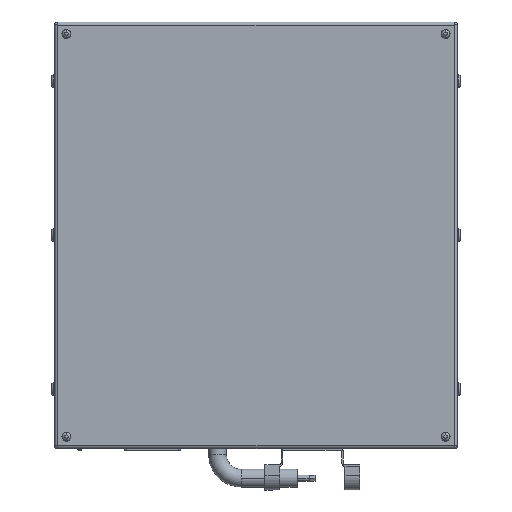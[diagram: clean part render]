
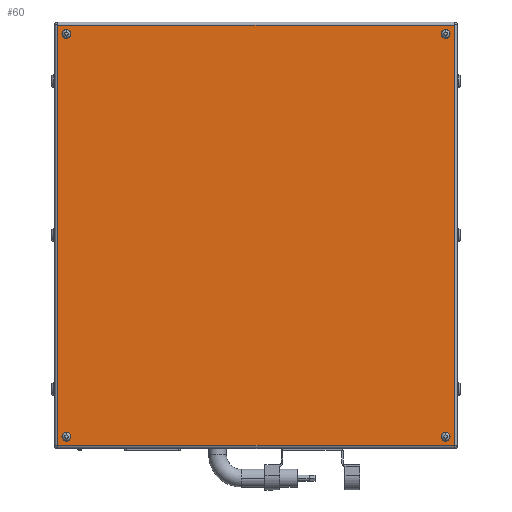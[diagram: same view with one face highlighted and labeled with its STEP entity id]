
A CAD part, front view. The second image highlights one B-rep face of the part: STEP entity #60.
In plain terms, the highlighted planar face has unit normal (0, -1, 0).
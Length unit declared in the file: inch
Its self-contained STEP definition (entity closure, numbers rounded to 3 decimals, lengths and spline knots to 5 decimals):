
#60 = ADVANCED_FACE ( 'NONE', ( #3467, #324, #6841, #18116, #18003 ), #10041, .T. ) ;
#324 = FACE_BOUND ( 'NONE', #19485, .T. ) ;
#382 = AXIS2_PLACEMENT_3D ( 'NONE', #10482, #16852, #15373 ) ;
#522 = CARTESIAN_POINT ( 'NONE',  ( -16., -10.5, -16.62598 ) ) ;
#549 = CARTESIAN_POINT ( 'NONE',  ( 16.734, -10.5, 17.8 ) ) ;
#952 = CARTESIAN_POINT ( 'NONE',  ( -16.734, -10.5, -17.734 ) ) ;
#1193 = EDGE_CURVE ( 'NONE', #18578, #15379, #13645, .T. ) ;
#1246 = DIRECTION ( 'NONE',  ( 0., -1., 0. ) ) ;
#1249 = AXIS2_PLACEMENT_3D ( 'NONE', #2051, #8430, #7219 ) ;
#1585 = EDGE_CURVE ( 'NONE', #7565, #14504, #4558, .T. ) ;
#2051 = CARTESIAN_POINT ( 'NONE',  ( 16., -10.5, -17. ) ) ;
#2094 = DIRECTION ( 'NONE',  ( 0., -1., 0. ) ) ;
#2262 = EDGE_LOOP ( 'NONE', ( #7153, #13024 ) ) ;
#2322 = DIRECTION ( 'NONE',  ( 0., 0., 1. ) ) ;
#2667 = CIRCLE ( 'NONE', #16113, 0.37402 ) ;
#2693 = DIRECTION ( 'NONE',  ( 0., 0., -1. ) ) ;
#2710 = DIRECTION ( 'NONE',  ( 0., 0., -1. ) ) ;
#2857 = ORIENTED_EDGE ( 'NONE', *, *, #9397, .T. ) ;
#2880 = EDGE_CURVE ( 'NONE', #7275, #16351, #3600, .T. ) ;
#2994 = DIRECTION ( 'NONE',  ( 0., -1., 0. ) ) ;
#3064 = DIRECTION ( 'NONE',  ( 1., 0., 0. ) ) ;
#3117 = DIRECTION ( 'NONE',  ( 0., 0., -1. ) ) ;
#3467 = FACE_BOUND ( 'NONE', #10900, .T. ) ;
#3473 = CARTESIAN_POINT ( 'NONE',  ( -16., -10.5, 17. ) ) ;
#3577 = CARTESIAN_POINT ( 'NONE',  ( -16., -10.5, -17. ) ) ;
#3600 = CIRCLE ( 'NONE', #7961, 0.37402 ) ;
#3702 = LINE ( 'NONE', #549, #17537 ) ;
#4195 = VECTOR ( 'NONE', #3064, 39.37008 ) ;
#4232 = ORIENTED_EDGE ( 'NONE', *, *, #1585, .F. ) ;
#4259 = LINE ( 'NONE', #19065, #4195 ) ;
#4558 = CIRCLE ( 'NONE', #7237, 0.37402 ) ;
#4569 = VERTEX_POINT ( 'NONE', #18164 ) ;
#4872 = DIRECTION ( 'NONE',  ( 0., -1., 0. ) ) ;
#5120 = CIRCLE ( 'NONE', #382, 0.37402 ) ;
#6025 = EDGE_CURVE ( 'NONE', #18782, #12435, #10843, .T. ) ;
#6283 = ORIENTED_EDGE ( 'NONE', *, *, #1193, .F. ) ;
#6385 = CARTESIAN_POINT ( 'NONE',  ( -16., -10.5, -17.37402 ) ) ;
#6841 = FACE_BOUND ( 'NONE', #11628, .T. ) ;
#6915 = ORIENTED_EDGE ( 'NONE', *, *, #12863, .T. ) ;
#7153 = ORIENTED_EDGE ( 'NONE', *, *, #13659, .F. ) ;
#7174 = AXIS2_PLACEMENT_3D ( 'NONE', #3473, #2094, #14933 ) ;
#7219 = DIRECTION ( 'NONE',  ( 0., 0., -1. ) ) ;
#7237 = AXIS2_PLACEMENT_3D ( 'NONE', #14394, #4872, #19470 ) ;
#7275 = VERTEX_POINT ( 'NONE', #16846 ) ;
#7276 = CARTESIAN_POINT ( 'NONE',  ( 16., -10.5, -16.62598 ) ) ;
#7432 = DIRECTION ( 'NONE',  ( 0., -1., 0. ) ) ;
#7565 = VERTEX_POINT ( 'NONE', #12583 ) ;
#7640 = CARTESIAN_POINT ( 'NONE',  ( -16.734, -10.5, -17.8 ) ) ;
#7670 = ORIENTED_EDGE ( 'NONE', *, *, #6025, .T. ) ;
#7939 = LINE ( 'NONE', #14550, #10681 ) ;
#7961 = AXIS2_PLACEMENT_3D ( 'NONE', #14339, #2994, #15828 ) ;
#8042 = VERTEX_POINT ( 'NONE', #18054 ) ;
#8430 = DIRECTION ( 'NONE',  ( 0., -1., 0. ) ) ;
#8797 = DIRECTION ( 'NONE',  ( 0., 0., -1. ) ) ;
#9397 = EDGE_CURVE ( 'NONE', #4569, #8042, #3702, .T. ) ;
#9634 = DIRECTION ( 'NONE',  ( 0., 0., -1. ) ) ;
#10041 = PLANE ( 'NONE',  #17728 ) ;
#10255 = CARTESIAN_POINT ( 'NONE',  ( 0., -10.5, 0. ) ) ;
#10482 = CARTESIAN_POINT ( 'NONE',  ( -16., -10.5, -17. ) ) ;
#10562 = CARTESIAN_POINT ( 'NONE',  ( 16., -10.5, 17. ) ) ;
#10681 = VECTOR ( 'NONE', #12508, 39.37008 ) ;
#10794 = EDGE_CURVE ( 'NONE', #16536, #17311, #17836, .T. ) ;
#10843 = LINE ( 'NONE', #7640, #17950 ) ;
#10887 = ORIENTED_EDGE ( 'NONE', *, *, #16517, .F. ) ;
#10900 = EDGE_LOOP ( 'NONE', ( #17959, #14190 ) ) ;
#10972 = CARTESIAN_POINT ( 'NONE',  ( -16.734, -10.5, 17.734 ) ) ;
#11366 = AXIS2_PLACEMENT_3D ( 'NONE', #3577, #14926, #9634 ) ;
#11628 = EDGE_LOOP ( 'NONE', ( #16964, #6283 ) ) ;
#11958 = CARTESIAN_POINT ( 'NONE',  ( 16., -10.5, -17.37402 ) ) ;
#12435 = VERTEX_POINT ( 'NONE', #952 ) ;
#12459 = EDGE_CURVE ( 'NONE', #16351, #7275, #13709, .T. ) ;
#12508 = DIRECTION ( 'NONE',  ( -1., 0., 0. ) ) ;
#12569 = CARTESIAN_POINT ( 'NONE',  ( -16., -10.5, 17.37402 ) ) ;
#12583 = CARTESIAN_POINT ( 'NONE',  ( -16., -10.5, 16.62598 ) ) ;
#12624 = EDGE_CURVE ( 'NONE', #15379, #18578, #2667, .T. ) ;
#12863 = EDGE_CURVE ( 'NONE', #8042, #18782, #7939, .T. ) ;
#13013 = CARTESIAN_POINT ( 'NONE',  ( 16., -10.5, 16.62598 ) ) ;
#13024 = ORIENTED_EDGE ( 'NONE', *, *, #10794, .F. ) ;
#13238 = EDGE_LOOP ( 'NONE', ( #2857, #6915, #7670, #15638 ) ) ;
#13645 = CIRCLE ( 'NONE', #1249, 0.37402 ) ;
#13659 = EDGE_CURVE ( 'NONE', #17311, #16536, #5120, .T. ) ;
#13709 = CIRCLE ( 'NONE', #14063, 0.37402 ) ;
#13953 = DIRECTION ( 'NONE',  ( 0., -1., 0. ) ) ;
#14063 = AXIS2_PLACEMENT_3D ( 'NONE', #10562, #1246, #2710 ) ;
#14190 = ORIENTED_EDGE ( 'NONE', *, *, #12459, .F. ) ;
#14339 = CARTESIAN_POINT ( 'NONE',  ( 16., -10.5, 17. ) ) ;
#14394 = CARTESIAN_POINT ( 'NONE',  ( -16., -10.5, 17. ) ) ;
#14452 = EDGE_CURVE ( 'NONE', #12435, #4569, #4259, .T. ) ;
#14504 = VERTEX_POINT ( 'NONE', #12569 ) ;
#14550 = CARTESIAN_POINT ( 'NONE',  ( -16.8, -10.5, 17.734 ) ) ;
#14926 = DIRECTION ( 'NONE',  ( 0., -1., 0. ) ) ;
#14933 = DIRECTION ( 'NONE',  ( 0., 0., -1. ) ) ;
#15373 = DIRECTION ( 'NONE',  ( 0., 0., -1. ) ) ;
#15379 = VERTEX_POINT ( 'NONE', #7276 ) ;
#15638 = ORIENTED_EDGE ( 'NONE', *, *, #14452, .T. ) ;
#15828 = DIRECTION ( 'NONE',  ( 0., 0., -1. ) ) ;
#15958 = CARTESIAN_POINT ( 'NONE',  ( 16., -10.5, -17. ) ) ;
#16113 = AXIS2_PLACEMENT_3D ( 'NONE', #15958, #7432, #2693 ) ;
#16351 = VERTEX_POINT ( 'NONE', #13013 ) ;
#16517 = EDGE_CURVE ( 'NONE', #14504, #7565, #17917, .T. ) ;
#16536 = VERTEX_POINT ( 'NONE', #6385 ) ;
#16846 = CARTESIAN_POINT ( 'NONE',  ( 16., -10.5, 17.37402 ) ) ;
#16852 = DIRECTION ( 'NONE',  ( 0., -1., 0. ) ) ;
#16964 = ORIENTED_EDGE ( 'NONE', *, *, #12624, .F. ) ;
#17311 = VERTEX_POINT ( 'NONE', #522 ) ;
#17537 = VECTOR ( 'NONE', #2322, 39.37008 ) ;
#17728 = AXIS2_PLACEMENT_3D ( 'NONE', #10255, #13953, #8797 ) ;
#17836 = CIRCLE ( 'NONE', #11366, 0.37402 ) ;
#17917 = CIRCLE ( 'NONE', #7174, 0.37402 ) ;
#17950 = VECTOR ( 'NONE', #3117, 39.37008 ) ;
#17959 = ORIENTED_EDGE ( 'NONE', *, *, #2880, .F. ) ;
#18003 = FACE_OUTER_BOUND ( 'NONE', #13238, .T. ) ;
#18054 = CARTESIAN_POINT ( 'NONE',  ( 16.734, -10.5, 17.734 ) ) ;
#18116 = FACE_BOUND ( 'NONE', #2262, .T. ) ;
#18164 = CARTESIAN_POINT ( 'NONE',  ( 16.734, -10.5, -17.734 ) ) ;
#18578 = VERTEX_POINT ( 'NONE', #11958 ) ;
#18782 = VERTEX_POINT ( 'NONE', #10972 ) ;
#19065 = CARTESIAN_POINT ( 'NONE',  ( 16.8, -10.5, -17.734 ) ) ;
#19470 = DIRECTION ( 'NONE',  ( 0., 0., -1. ) ) ;
#19485 = EDGE_LOOP ( 'NONE', ( #10887, #4232 ) ) ;
